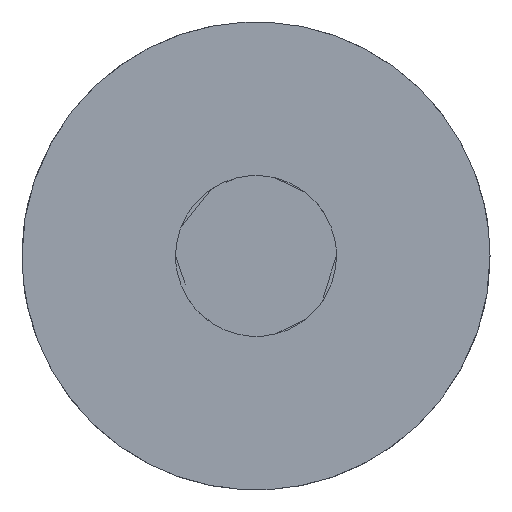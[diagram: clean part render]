
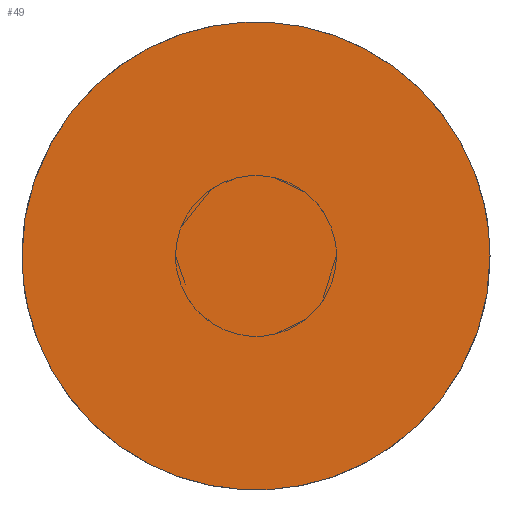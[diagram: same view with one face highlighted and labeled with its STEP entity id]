
A CAD part, top view. The second image highlights one B-rep face of the part: STEP entity #49.
In plain terms, the highlighted planar face has unit normal (0, 0, 1).
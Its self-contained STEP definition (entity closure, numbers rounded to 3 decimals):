
#49=ADVANCED_FACE('',(#87),#571,.T.);
#87=FACE_OUTER_BOUND('',#125,.T.);
#125=EDGE_LOOP('',(#169,#170));
#169=ORIENTED_EDGE('',*,*,#363,.F.);
#170=ORIENTED_EDGE('',*,*,#345,.F.);
#345=EDGE_CURVE('',#493,#515,#411,.T.);
#363=EDGE_CURVE('',#515,#493,#425,.T.);
#411=(
BOUNDED_CURVE()
B_SPLINE_CURVE(2,(#925,#926,#927,#928,#929),.UNSPECIFIED.,.F.,.F.)
B_SPLINE_CURVE_WITH_KNOTS((3,2,3),(0.,12.566,25.133),
 .UNSPECIFIED.)
CURVE()
GEOMETRIC_REPRESENTATION_ITEM()
RATIONAL_B_SPLINE_CURVE((1.,0.707,1.,0.707,1.))
REPRESENTATION_ITEM('')
);
#425=(
BOUNDED_CURVE()
B_SPLINE_CURVE(2,(#1017,#1018,#1019,#1020,#1021),.UNSPECIFIED.,.F.,.F.)
B_SPLINE_CURVE_WITH_KNOTS((3,2,3),(25.133,37.699,50.265),
 .UNSPECIFIED.)
CURVE()
GEOMETRIC_REPRESENTATION_ITEM()
RATIONAL_B_SPLINE_CURVE((1.,0.707,1.,0.707,1.))
REPRESENTATION_ITEM('')
);
#493=VERTEX_POINT('',#809);
#515=VERTEX_POINT('',#831);
#571=PLANE('',#605);
#605=AXIS2_PLACEMENT_3D('',#642,#623,$);
#623=DIRECTION('',(0.,0.,1.));
#642=CARTESIAN_POINT('',(-898.145,-10.21,468.943));
#809=CARTESIAN_POINT('',(-895.936,0.,468.943));
#831=CARTESIAN_POINT('',(-879.936,0.,468.943));
#925=CARTESIAN_POINT('',(-895.936,0.,468.943));
#926=CARTESIAN_POINT('',(-895.936,8.,468.943));
#927=CARTESIAN_POINT('',(-887.936,8.,468.943));
#928=CARTESIAN_POINT('',(-879.936,8.,468.943));
#929=CARTESIAN_POINT('',(-879.936,0.,468.943));
#1017=CARTESIAN_POINT('',(-879.936,0.,468.943));
#1018=CARTESIAN_POINT('',(-879.936,-8.,468.943));
#1019=CARTESIAN_POINT('',(-887.936,-8.,468.943));
#1020=CARTESIAN_POINT('',(-895.936,-8.,468.943));
#1021=CARTESIAN_POINT('',(-895.936,0.,468.943));
